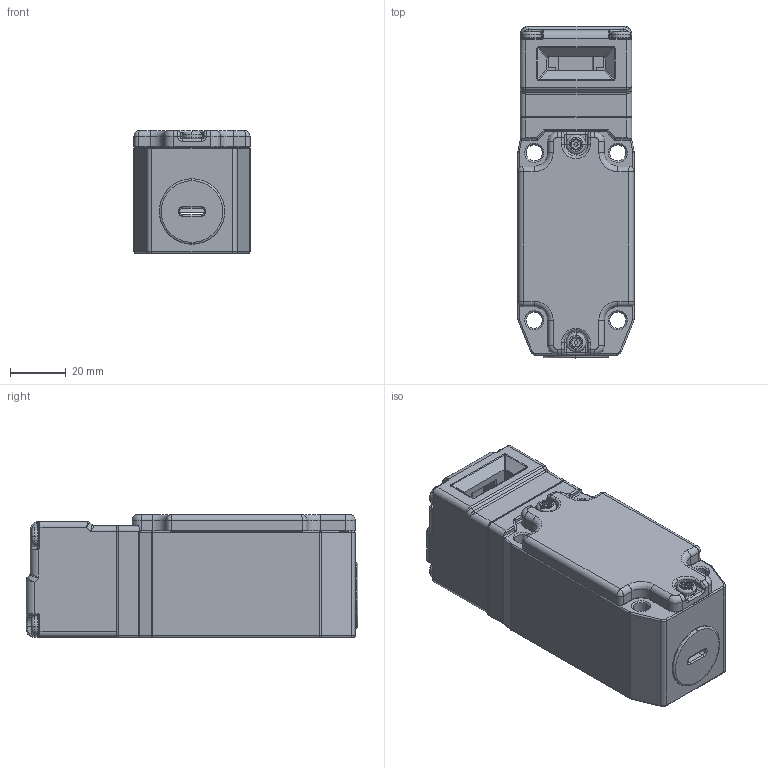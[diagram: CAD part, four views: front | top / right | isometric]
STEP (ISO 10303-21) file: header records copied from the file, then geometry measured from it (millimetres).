
FILE_DESCRIPTION (( 'STEP AP203' ), '1' );
FILE_NAME ('204-KM-SS (step format).STEP', '2013-01-08T16:53:29', ( '' ), ( '' ), 'SwSTEP 2.0', 'SolidWorks 2010', '' );
FILE_SCHEMA (( 'CONFIG_CONTROL_DESIGN' ));
Length unit declared in the file: millimetre
Products named in the file (1): 204-KM-SS (step format)
Bounding box: 41.6 x 119 x 44 mm (x, y, z)
Surface area: 33695.3 mm2 (no closed solid volume)
Topology: 0 solids, 19 shells, 983 faces, 2860 edges, 1801 vertices
Faces by surface type: cylinder 393, plane 266, torus 140, bspline 105, cone 70, sphere 9
Entity records: 37166 total; most frequent: CARTESIAN_POINT 11904, DIRECTION 5458, ORIENTED_EDGE 4935, EDGE_CURVE 2839, AXIS2_PLACEMENT_3D 2085, VERTEX_POINT 1801, VECTOR 1288, LINE 1288
